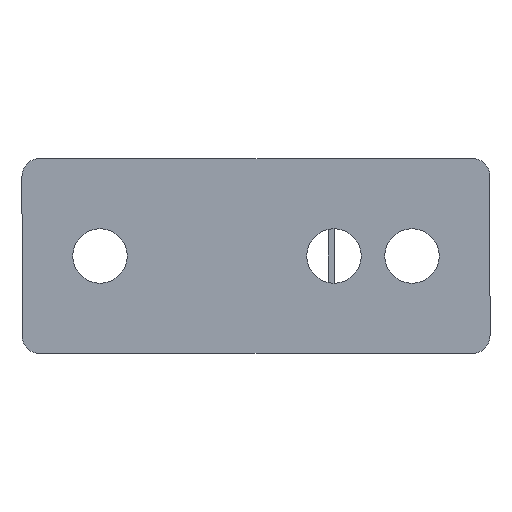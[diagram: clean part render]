
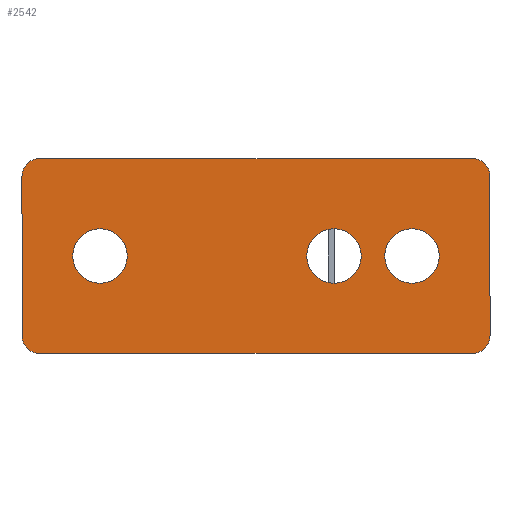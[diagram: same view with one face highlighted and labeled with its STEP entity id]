
A CAD part, left-side view. The second image highlights one B-rep face of the part: STEP entity #2542.
In plain terms, the highlighted planar face has unit normal (-1, 0, 0) as drawn and (0, -1, 0) by its records, which use the part's own axes.
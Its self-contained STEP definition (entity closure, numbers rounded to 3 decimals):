
#26 = CARTESIAN_POINT ( 'NONE',  ( 40., 0., 7. ) ) ;
#81 = CARTESIAN_POINT ( 'NONE',  ( -55.5, 0., -20.5 ) ) ;
#144 = CIRCLE ( 'NONE', #563, 7. ) ;
#148 = DIRECTION ( 'NONE',  ( 0., 0., -1. ) ) ;
#151 = VECTOR ( 'NONE', #2662, 1000. ) ;
#189 = CARTESIAN_POINT ( 'NONE',  ( -20., 0., 0. ) ) ;
#311 = EDGE_CURVE ( 'NONE', #1833, #2434, #2453, .T. ) ;
#336 = CIRCLE ( 'NONE', #1575, 7. ) ;
#360 = VERTEX_POINT ( 'NONE', #1382 ) ;
#367 = FACE_OUTER_BOUND ( 'NONE', #1555, .T. ) ;
#368 = CARTESIAN_POINT ( 'NONE',  ( 40., 0., 0. ) ) ;
#371 = VERTEX_POINT ( 'NONE', #2614 ) ;
#390 = CARTESIAN_POINT ( 'NONE',  ( 60., 0., -25. ) ) ;
#405 = CARTESIAN_POINT ( 'NONE',  ( -60., 0., -20.5 ) ) ;
#427 = CIRCLE ( 'NONE', #1010, 4.5 ) ;
#438 = DIRECTION ( 'NONE',  ( 0., 1., 0. ) ) ;
#457 = CARTESIAN_POINT ( 'NONE',  ( -40., 0., 7. ) ) ;
#488 = ORIENTED_EDGE ( 'NONE', *, *, #1561, .T. ) ;
#532 = CARTESIAN_POINT ( 'NONE',  ( 55.5, 0., -20.5 ) ) ;
#559 = AXIS2_PLACEMENT_3D ( 'NONE', #689, #438, #1283 ) ;
#563 = AXIS2_PLACEMENT_3D ( 'NONE', #189, #1456, #1470 ) ;
#579 = CARTESIAN_POINT ( 'NONE',  ( 40., 0., 0. ) ) ;
#584 = EDGE_CURVE ( 'NONE', #648, #360, #336, .T. ) ;
#626 = DIRECTION ( 'NONE',  ( 0., -1., 0. ) ) ;
#648 = VERTEX_POINT ( 'NONE', #26 ) ;
#669 = ORIENTED_EDGE ( 'NONE', *, *, #2494, .F. ) ;
#689 = CARTESIAN_POINT ( 'NONE',  ( -40., 0., 0. ) ) ;
#690 = VERTEX_POINT ( 'NONE', #2535 ) ;
#754 = CARTESIAN_POINT ( 'NONE',  ( 60., 0., -20.5 ) ) ;
#786 = DIRECTION ( 'NONE',  ( 0., -1., 0. ) ) ;
#787 = AXIS2_PLACEMENT_3D ( 'NONE', #883, #2117, #2373 ) ;
#815 = DIRECTION ( 'NONE',  ( 0., 1., 0. ) ) ;
#837 = DIRECTION ( 'NONE',  ( 0., -1., 0. ) ) ;
#863 = ORIENTED_EDGE ( 'NONE', *, *, #2146, .T. ) ;
#872 = EDGE_CURVE ( 'NONE', #1124, #1954, #1207, .T. ) ;
#883 = CARTESIAN_POINT ( 'NONE',  ( -40., 0., 0. ) ) ;
#917 = DIRECTION ( 'NONE',  ( 0., 0., 1. ) ) ;
#925 = DIRECTION ( 'NONE',  ( 0., 0., -1. ) ) ;
#942 = DIRECTION ( 'NONE',  ( 0., -1., 0. ) ) ;
#969 = AXIS2_PLACEMENT_3D ( 'NONE', #1301, #837, #1911 ) ;
#976 = VERTEX_POINT ( 'NONE', #1874 ) ;
#1004 = DIRECTION ( 'NONE',  ( 0., 0., -1. ) ) ;
#1010 = AXIS2_PLACEMENT_3D ( 'NONE', #2091, #626, #2308 ) ;
#1102 = CARTESIAN_POINT ( 'NONE',  ( 55.5, 0., -25. ) ) ;
#1124 = VERTEX_POINT ( 'NONE', #1102 ) ;
#1125 = ORIENTED_EDGE ( 'NONE', *, *, #2526, .F. ) ;
#1154 = ORIENTED_EDGE ( 'NONE', *, *, #1922, .F. ) ;
#1164 = EDGE_CURVE ( 'NONE', #2243, #1954, #2503, .T. ) ;
#1172 = DIRECTION ( 'NONE',  ( 0., 0., -1. ) ) ;
#1181 = CARTESIAN_POINT ( 'NONE',  ( 55.5, 0., 25. ) ) ;
#1183 = AXIS2_PLACEMENT_3D ( 'NONE', #532, #2575, #2385 ) ;
#1191 = ORIENTED_EDGE ( 'NONE', *, *, #1192, .T. ) ;
#1192 = EDGE_CURVE ( 'NONE', #1124, #1323, #2550, .T. ) ;
#1207 = LINE ( 'NONE', #2035, #151 ) ;
#1210 = DIRECTION ( 'NONE',  ( 0., 1., 0. ) ) ;
#1240 = AXIS2_PLACEMENT_3D ( 'NONE', #390, #786, #2714 ) ;
#1264 = AXIS2_PLACEMENT_3D ( 'NONE', #579, #815, #2063 ) ;
#1283 = DIRECTION ( 'NONE',  ( 0., 0., 1. ) ) ;
#1287 = CIRCLE ( 'NONE', #2220, 7. ) ;
#1301 = CARTESIAN_POINT ( 'NONE',  ( -55.5, 0., 20.5 ) ) ;
#1323 = VERTEX_POINT ( 'NONE', #754 ) ;
#1328 = EDGE_LOOP ( 'NONE', ( #2659, #669 ) ) ;
#1337 = VERTEX_POINT ( 'NONE', #1181 ) ;
#1344 = VERTEX_POINT ( 'NONE', #1848 ) ;
#1382 = CARTESIAN_POINT ( 'NONE',  ( 40., 0., -7. ) ) ;
#1391 = CARTESIAN_POINT ( 'NONE',  ( -20., 0., 0. ) ) ;
#1396 = ORIENTED_EDGE ( 'NONE', *, *, #2309, .T. ) ;
#1409 = VECTOR ( 'NONE', #2379, 1000. ) ;
#1441 = FACE_BOUND ( 'NONE', #1328, .T. ) ;
#1456 = DIRECTION ( 'NONE',  ( 0., -1., 0. ) ) ;
#1470 = DIRECTION ( 'NONE',  ( 0., 0., -1. ) ) ;
#1514 = EDGE_CURVE ( 'NONE', #1344, #976, #1851, .T. ) ;
#1521 = ORIENTED_EDGE ( 'NONE', *, *, #584, .T. ) ;
#1535 = LINE ( 'NONE', #1986, #1409 ) ;
#1536 = AXIS2_PLACEMENT_3D ( 'NONE', #81, #2409, #925 ) ;
#1550 = EDGE_LOOP ( 'NONE', ( #1396, #2217 ) ) ;
#1555 = EDGE_LOOP ( 'NONE', ( #1154, #2143, #1590, #2737, #2557, #1191, #1125, #488 ) ) ;
#1557 = VECTOR ( 'NONE', #1004, 1000. ) ;
#1561 = EDGE_CURVE ( 'NONE', #371, #1337, #427, .T. ) ;
#1575 = AXIS2_PLACEMENT_3D ( 'NONE', #368, #1210, #148 ) ;
#1590 = ORIENTED_EDGE ( 'NONE', *, *, #1860, .F. ) ;
#1646 = FACE_BOUND ( 'NONE', #1550, .T. ) ;
#1666 = VECTOR ( 'NONE', #917, 1000. ) ;
#1762 = CARTESIAN_POINT ( 'NONE',  ( -55.5, 0., -25. ) ) ;
#1833 = VERTEX_POINT ( 'NONE', #457 ) ;
#1848 = CARTESIAN_POINT ( 'NONE',  ( -55.5, 0., 25. ) ) ;
#1851 = CIRCLE ( 'NONE', #969, 4.5 ) ;
#1860 = EDGE_CURVE ( 'NONE', #2243, #976, #1921, .T. ) ;
#1874 = CARTESIAN_POINT ( 'NONE',  ( -60., 0., 20.5 ) ) ;
#1911 = DIRECTION ( 'NONE',  ( 0., 0., -1. ) ) ;
#1921 = LINE ( 'NONE', #1951, #1666 ) ;
#1922 = EDGE_CURVE ( 'NONE', #1344, #1337, #1535, .T. ) ;
#1951 = CARTESIAN_POINT ( 'NONE',  ( -60., 0., 25. ) ) ;
#1954 = VERTEX_POINT ( 'NONE', #1762 ) ;
#1986 = CARTESIAN_POINT ( 'NONE',  ( -60., 0., 25. ) ) ;
#2035 = CARTESIAN_POINT ( 'NONE',  ( -60., 0., -25. ) ) ;
#2063 = DIRECTION ( 'NONE',  ( 0., 0., -1. ) ) ;
#2091 = CARTESIAN_POINT ( 'NONE',  ( 55.5, 0., 20.5 ) ) ;
#2106 = EDGE_CURVE ( 'NONE', #690, #2384, #144, .T. ) ;
#2109 = CIRCLE ( 'NONE', #1264, 7. ) ;
#2117 = DIRECTION ( 'NONE',  ( 0., 1., 0. ) ) ;
#2143 = ORIENTED_EDGE ( 'NONE', *, *, #1514, .T. ) ;
#2146 = EDGE_CURVE ( 'NONE', #360, #648, #2109, .T. ) ;
#2217 = ORIENTED_EDGE ( 'NONE', *, *, #311, .T. ) ;
#2220 = AXIS2_PLACEMENT_3D ( 'NONE', #1391, #942, #1172 ) ;
#2243 = VERTEX_POINT ( 'NONE', #405 ) ;
#2249 = LINE ( 'NONE', #2704, #1557 ) ;
#2287 = FACE_BOUND ( 'NONE', #2602, .T. ) ;
#2308 = DIRECTION ( 'NONE',  ( 0., 0., -1. ) ) ;
#2309 = EDGE_CURVE ( 'NONE', #2434, #1833, #2410, .T. ) ;
#2373 = DIRECTION ( 'NONE',  ( 0., 0., 1. ) ) ;
#2379 = DIRECTION ( 'NONE',  ( 1., 0., 0. ) ) ;
#2384 = VERTEX_POINT ( 'NONE', #2580 ) ;
#2385 = DIRECTION ( 'NONE',  ( 0., 0., -1. ) ) ;
#2409 = DIRECTION ( 'NONE',  ( 0., -1., 0. ) ) ;
#2410 = CIRCLE ( 'NONE', #787, 7. ) ;
#2434 = VERTEX_POINT ( 'NONE', #2625 ) ;
#2453 = CIRCLE ( 'NONE', #559, 7. ) ;
#2483 = PLANE ( 'NONE',  #1240 ) ;
#2494 = EDGE_CURVE ( 'NONE', #2384, #690, #1287, .T. ) ;
#2503 = CIRCLE ( 'NONE', #1536, 4.5 ) ;
#2526 = EDGE_CURVE ( 'NONE', #371, #1323, #2249, .T. ) ;
#2535 = CARTESIAN_POINT ( 'NONE',  ( -20., 0., 7. ) ) ;
#2542 = ADVANCED_FACE ( 'NONE', ( #1441, #1646, #367, #2287 ), #2483, .T. ) ;
#2550 = CIRCLE ( 'NONE', #1183, 4.5 ) ;
#2557 = ORIENTED_EDGE ( 'NONE', *, *, #872, .F. ) ;
#2575 = DIRECTION ( 'NONE',  ( 0., -1., 0. ) ) ;
#2580 = CARTESIAN_POINT ( 'NONE',  ( -20., 0., -7. ) ) ;
#2602 = EDGE_LOOP ( 'NONE', ( #863, #1521 ) ) ;
#2614 = CARTESIAN_POINT ( 'NONE',  ( 60., 0., 20.5 ) ) ;
#2625 = CARTESIAN_POINT ( 'NONE',  ( -40., 0., -7. ) ) ;
#2659 = ORIENTED_EDGE ( 'NONE', *, *, #2106, .F. ) ;
#2662 = DIRECTION ( 'NONE',  ( -1., 0., 0. ) ) ;
#2704 = CARTESIAN_POINT ( 'NONE',  ( 60., 0., 25. ) ) ;
#2714 = DIRECTION ( 'NONE',  ( 0., 0., -1. ) ) ;
#2737 = ORIENTED_EDGE ( 'NONE', *, *, #1164, .T. ) ;
